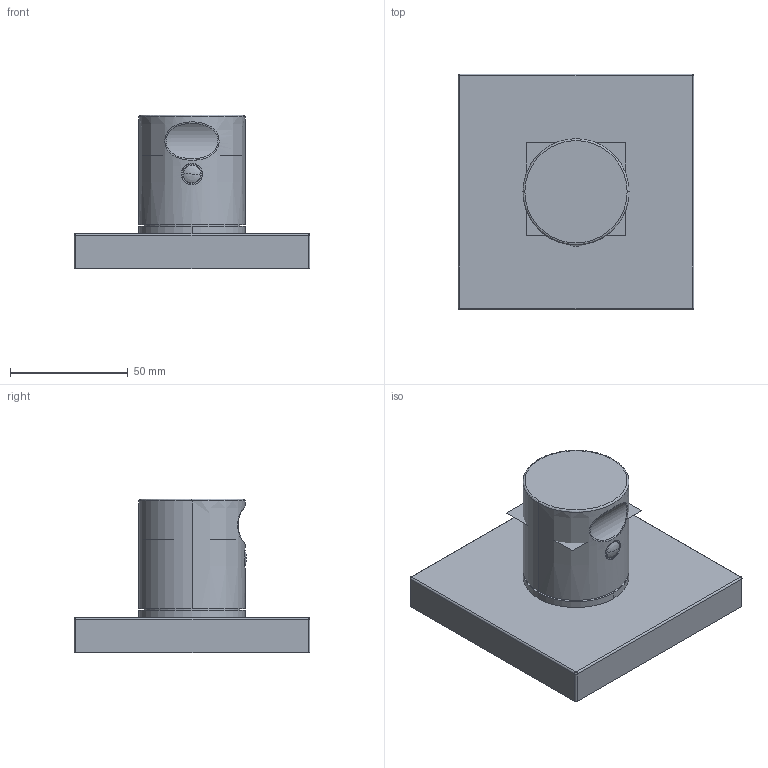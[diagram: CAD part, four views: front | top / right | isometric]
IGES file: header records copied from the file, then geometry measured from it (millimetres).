
Start section:  PTC IGES file: db351ve.igs
Global section: file name: db351ve.igs; native system: Creo Parametric by Parametric Technology Corporation; preprocessor: 2012130; author: Uporabnik; organization: Unknown; date: 20121114.104716; units: millimetre
Bounding box: 100 x 100 x 65.2 mm (x, y, z)
Volume: 229140.7 mm3; surface area: 38468.8 mm2
Topology: 1 solids, 3 shells, 43 faces, 122 edges, 99 vertices
Faces by surface type: revolution 27, bspline 16
